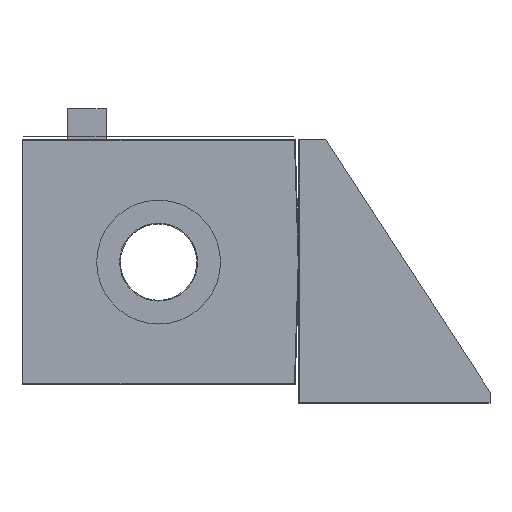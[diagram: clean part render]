
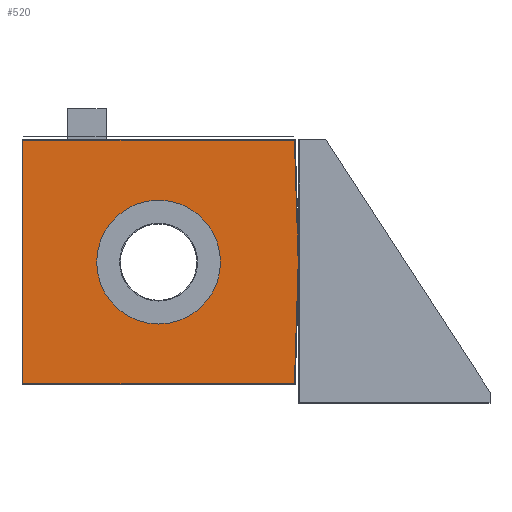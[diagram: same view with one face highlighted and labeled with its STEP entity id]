
A CAD part, left-side view. The second image highlights one B-rep face of the part: STEP entity #520.
In plain terms, the highlighted planar face has unit normal (-1, 0, 0).
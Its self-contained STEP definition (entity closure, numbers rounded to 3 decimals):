
#165=CARTESIAN_POINT('',(-260.,0.,0.));
#166=DIRECTION('',(1.,0.,0.));
#167=DIRECTION('',(0.,0.,-1.));
#168=AXIS2_PLACEMENT_3D('',#165,#166,#167);
#170=CARTESIAN_POINT('',(-260.,0.,0.));
#171=DIRECTION('',(1.,0.,0.));
#172=DIRECTION('',(0.,0.,1.));
#173=AXIS2_PLACEMENT_3D('',#170,#171,#172);
#175=DIRECTION('',(0.,0.,1.));
#176=VECTOR('',#175,640.);
#177=CARTESIAN_POINT('',(-260.,357.5,-320.));
#178=LINE('',#177,#176);
#179=DIRECTION('',(0.,-1.,0.));
#180=VECTOR('',#179,715.);
#181=CARTESIAN_POINT('',(-260.,357.5,320.));
#182=LINE('',#181,#180);
#183=DIRECTION('',(0.,-0.031,-1.));
#184=VECTOR('',#183,320.156);
#185=CARTESIAN_POINT('',(-260.,-357.5,320.));
#186=LINE('',#185,#184);
#187=DIRECTION('',(0.,0.031,-1.));
#188=VECTOR('',#187,320.156);
#189=CARTESIAN_POINT('',(-260.,-367.5,0.));
#190=LINE('',#189,#188);
#191=DIRECTION('',(0.,1.,0.));
#192=VECTOR('',#191,715.);
#193=CARTESIAN_POINT('',(-260.,-357.5,-320.));
#194=LINE('',#193,#192);
#337=CARTESIAN_POINT('',(-260.,357.5,-320.));
#338=CARTESIAN_POINT('',(-260.,357.5,320.));
#339=VERTEX_POINT('',#337);
#340=VERTEX_POINT('',#338);
#341=CARTESIAN_POINT('',(-260.,-357.5,320.));
#342=VERTEX_POINT('',#341);
#343=CARTESIAN_POINT('',(-260.,-367.5,0.));
#344=VERTEX_POINT('',#343);
#345=CARTESIAN_POINT('',(-260.,-357.5,-320.));
#346=VERTEX_POINT('',#345);
#375=CARTESIAN_POINT('',(-260.,0.,-102.));
#376=CARTESIAN_POINT('',(-260.,0.,102.));
#377=VERTEX_POINT('',#375);
#378=VERTEX_POINT('',#376);
#498=CARTESIAN_POINT('',(-260.,0.,0.));
#499=DIRECTION('',(1.,0.,0.));
#500=DIRECTION('',(0.,0.,-1.));
#501=AXIS2_PLACEMENT_3D('',#498,#499,#500);
#502=PLANE('',#501);
#503=ORIENTED_EDGE('',*,*,#488,.T.);
#505=ORIENTED_EDGE('',*,*,#504,.T.);
#507=ORIENTED_EDGE('',*,*,#506,.T.);
#509=ORIENTED_EDGE('',*,*,#508,.T.);
#511=ORIENTED_EDGE('',*,*,#510,.T.);
#512=EDGE_LOOP('',(#503,#505,#507,#509,#511));
#513=FACE_OUTER_BOUND('',#512,.F.);
#515=ORIENTED_EDGE('',*,*,#514,.F.);
#517=ORIENTED_EDGE('',*,*,#516,.F.);
#518=EDGE_LOOP('',(#515,#517));
#519=FACE_BOUND('',#518,.F.);
#169=CIRCLE('',#168,102.);
#174=CIRCLE('',#173,102.);
#488=EDGE_CURVE('',#339,#340,#178,.T.);
#504=EDGE_CURVE('',#340,#342,#182,.T.);
#506=EDGE_CURVE('',#342,#344,#186,.T.);
#508=EDGE_CURVE('',#344,#346,#190,.T.);
#510=EDGE_CURVE('',#346,#339,#194,.T.);
#514=EDGE_CURVE('',#377,#378,#169,.T.);
#516=EDGE_CURVE('',#378,#377,#174,.T.);
#520=ADVANCED_FACE('',(#513,#519),#502,.F.);
